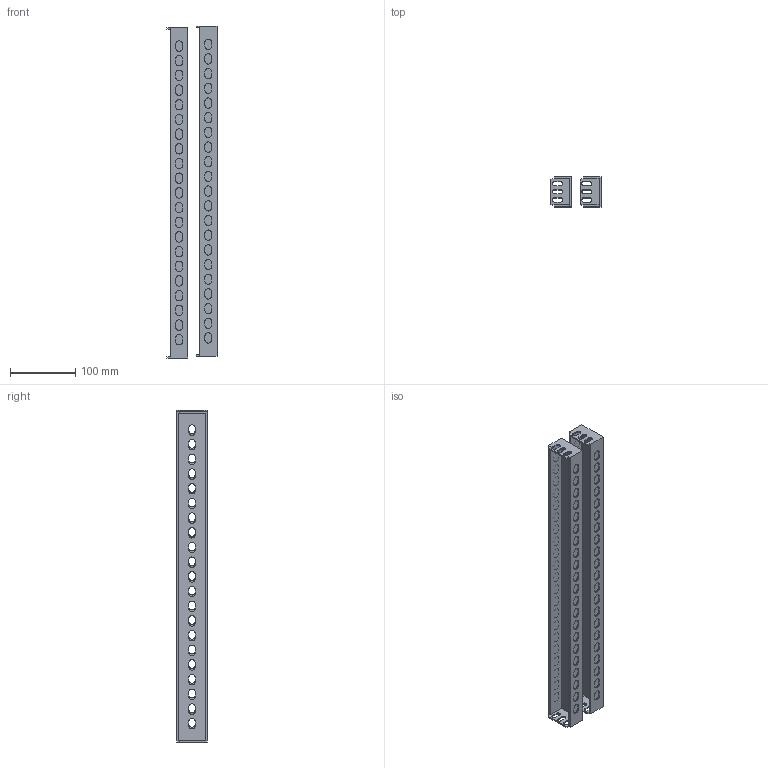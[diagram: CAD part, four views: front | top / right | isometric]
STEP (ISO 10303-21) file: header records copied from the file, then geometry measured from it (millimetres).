
FILE_DESCRIPTION (( 'STEP AP214' ), '1' );
FILE_NAME ('FO-00-RIZB-060 Ðåéêà èçîëÿòîðîâ òèï B 600ìì (2øò. êîìïë).STEP', '2025-08-14T07:30:10', ( '' ), ( '' ), 'SwSTEP 2.0', 'SolidWorks 2023', '' );
FILE_SCHEMA (( 'AUTOMOTIVE_DESIGN' ));
Length unit declared in the file: millimetre
Products named in the file (2): FO-00-RIZB-060 Рейка изоляторов тип B 600мм (2шт. компл); Рейка изоляторов тип B 600
Assembly tree (2 placements, depth 2):
  FO-00-RIZB-060 Рейка изоляторов тип B 600мм (2шт. компл)
    Рейка изоляторов тип B 600  x2
Bounding box: 76.72 x 46 x 508.68 mm (x, y, z)
Volume: 214908 mm3; surface area: 208899.5 mm2
Topology: 2 solids, 2 shells, 746 faces, 1958 edges, 1300 vertices
Faces by surface type: plane 416, cylinder 330
Entity records: 11730 total; most frequent: DIRECTION 2065, CARTESIAN_POINT 2007, ORIENTED_EDGE 1958, EDGE_CURVE 979, AXIS2_PLACEMENT_3D 708, VERTEX_POINT 650, LINE 649, VECTOR 649
